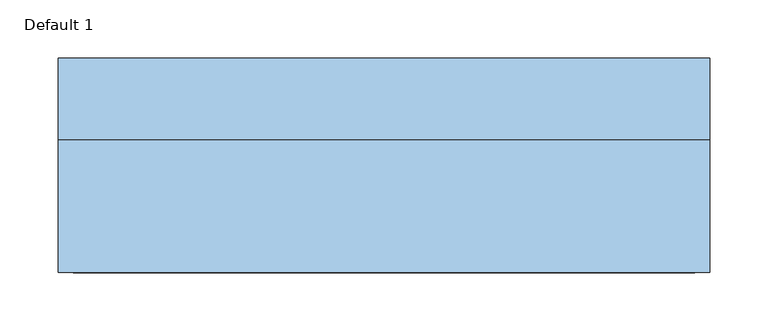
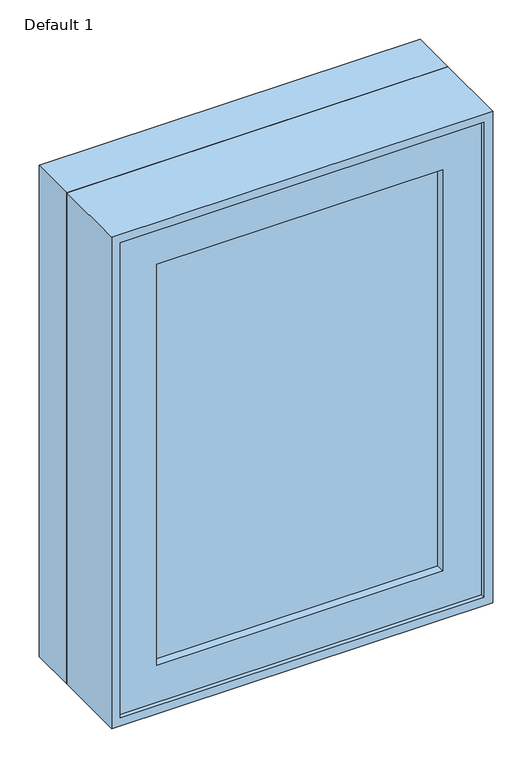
"""IFC4 building model written with IfcOpenShell, lengths in millimetres: window geometry, Planitar-Casement-Single_Left : Default 1."""

import ifcopenshell
import ifcopenshell.guid

model = None  # the IFC model being written
_history = None  # IfcOwnerHistory: only IFC2X3 demands one
_inside = {}  # id of a spatial element -> (the spatial element, [elements in it])
_under = {}  # id of a project, library or spatial element -> (it, [spatial elements below it])
_declared = {}  # id of a project -> (the project, [libraries it declares])
_typed = {}  # id of a type object -> (the type object, [elements of that type])
_made_of = {}  # id of a material, layer set ... -> (it, [elements and type objects made of it])


def new_model(schema):
    """Start an empty IFC model of exactly this schema.

    Asked for "IFC4X3", IfcOpenShell would pick the latest addendum, in which some entities
    have other attributes; the version numbers below select the first issue.
    IFC2X3 requires an IfcOwnerHistory on every rooted entity: one is made here for all.
    """
    global model, _history
    if schema == "IFC4X3":
        model = ifcopenshell.file(schema_version=(4, 3, 0, 0))
    else:
        model = ifcopenshell.file(schema=schema)
    _inside.clear()
    _under.clear()
    _declared.clear()
    _typed.clear()
    _made_of.clear()
    _history = None
    if model.schema == "IFC2X3":
        org = make("IfcOrganization", Name="unknown")
        user = make(
            "IfcPersonAndOrganization",
            ThePerson=make("IfcPerson", FamilyName="unknown"),
            TheOrganization=org,
        )
        app = make(
            "IfcApplication",
            ApplicationDeveloper=org,
            Version="unknown",
            ApplicationFullName="unknown",
            ApplicationIdentifier="unknown",
        )
        _history = make(
            "IfcOwnerHistory",
            OwningUser=user,
            OwningApplication=app,
            ChangeAction="ADDED",
            CreationDate=0,
        )
    return model


def make(cls, **values):
    """One entity of the class cls with the attributes given. An attribute that is None is left unset."""
    return model.create_entity(
        cls, **{name: value for name, value in values.items() if value is not None}
    )


def rooted(cls, **values):
    """An entity with a GlobalId (a new one), such as an element, a storey or a relation."""
    return make(cls, GlobalId=ifcopenshell.guid.new(), OwnerHistory=_history, **values)


def si_unit(unit_type, name, prefix=None):
    """IfcSIUnit, for example si_unit("LENGTHUNIT", "METRE", prefix="MILLI")."""
    return make("IfcSIUnit", UnitType=unit_type, Prefix=prefix, Name=name)


def assignment(units):
    """IfcUnitAssignment: the units of a project."""
    return None if units is None else make("IfcUnitAssignment", Units=units)


def point(xyz):
    """IfcCartesianPoint."""
    return None if xyz is None else make("IfcCartesianPoint", Coordinates=xyz)


def direction(xyz):
    """IfcDirection."""
    return None if xyz is None else make("IfcDirection", DirectionRatios=xyz)


def frame(location, z_axis=None, x_axis=None):
    """IfcAxis2Placement3D, a coordinate frame: its origin and axes. An axis left out is left unset."""
    return make(
        "IfcAxis2Placement3D",
        Location=point(location),
        Axis=direction(z_axis),
        RefDirection=direction(x_axis),
    )


def origin():
    """The frame at (0, 0, 0) with its axes left unset."""
    return frame((0.0, 0.0, 0.0))


def place(relative_to, where):
    """IfcLocalPlacement: puts the frame where relative to a parent placement (None: the world)."""
    return make(
        "IfcLocalPlacement", PlacementRelTo=relative_to, RelativePlacement=where
    )


def context(
    kind, dimensions, precision=None, world=None, true_north=None, identifier=None
):
    """IfcGeometricRepresentationContext, for example the 3D "Model" context."""
    return make(
        "IfcGeometricRepresentationContext",
        ContextIdentifier=identifier,
        ContextType=kind,
        CoordinateSpaceDimension=dimensions,
        Precision=precision,
        WorldCoordinateSystem=world,
        TrueNorth=true_north,
    )


def project(units=None, contexts=None):
    """IfcProject with its units and contexts."""
    return rooted(
        "IfcProject",
        Name="project",
        RepresentationContexts=contexts,
        UnitsInContext=assignment(units),
    )


def spatial(cls, under=None, at=None, **own):
    """A site, building, storey or space (cls), placed at a placement, below another one or the project."""
    s = rooted(cls, ObjectPlacement=at, **own)
    if under is not None:
        _under.setdefault(under.id(), (under, []))[1].append(s)
    return s


def polyline(points):
    """IfcPolyline through the points."""
    return make("IfcPolyline", Points=[point(p) for p in points])


def outline(outer, holes=None, kind="AREA"):
    """IfcArbitraryClosedProfileDef: a profile drawn as a closed curve; with holes, ...WithVoids."""
    if holes is None:
        return make("IfcArbitraryClosedProfileDef", ProfileType=kind, OuterCurve=outer)
    return make(
        "IfcArbitraryProfileDefWithVoids",
        ProfileType=kind,
        OuterCurve=outer,
        InnerCurves=holes,
    )


def extrude(swept, where, along, depth):
    """IfcExtrudedAreaSolid: the profile swept, set in the frame where, extruded along a direction by depth."""
    return make(
        "IfcExtrudedAreaSolid",
        SweptArea=swept,
        Position=where,
        ExtrudedDirection=direction(along),
        Depth=depth,
    )


def faces_of(points, faces, orient=None, outer=None):
    """IfcFace entities. A face is a list of loops; a loop is a list of indices into points, from 0.

    orient and outer hold one flag for each loop. By default every Orientation is true, the
    first loop of a face is its IfcFaceOuterBound and the others are IfcFaceBound.
    """
    made = []
    for i, loops in enumerate(faces):
        bounds = []
        for j, loop in enumerate(loops):
            is_outer = j == 0 if outer is None else outer[i][j]
            bounds.append(
                make(
                    "IfcFaceOuterBound" if is_outer else "IfcFaceBound",
                    Bound=make("IfcPolyLoop", Polygon=[points[k] for k in loop]),
                    Orientation=True if orient is None else orient[i][j],
                )
            )
        made.append(make("IfcFace", Bounds=bounds))
    return made


def faceted_brep(points, faces, orient=None, outer=None, voids=None):
    """IfcFacetedBrep: a solid bounded by flat faces; with voids (closed shells), ...WithVoids."""
    shared = [point(p) for p in points]
    hull = make("IfcClosedShell", CfsFaces=faces_of(shared, faces, orient, outer))
    if voids is None:
        return make("IfcFacetedBrep", Outer=hull)
    return make(
        "IfcFacetedBrepWithVoids",
        Outer=hull,
        Voids=[
            make(cls, CfsFaces=faces_of(shared, fs, o, b)) for cls, fs, o, b in voids
        ],
    )


def shape(context_of_items, identifier, shape_type, items):
    """IfcShapeRepresentation: the items that make up one representation, for example the "Body"."""
    return make(
        "IfcShapeRepresentation",
        ContextOfItems=context_of_items,
        RepresentationIdentifier=identifier,
        RepresentationType=shape_type,
        Items=items,
    )


def source(mapping_origin, context_of_items, identifier, shape_type, items):
    """IfcRepresentationMap: a shape defined once, which mapped items show again and again."""
    return make(
        "IfcRepresentationMap",
        MappingOrigin=mapping_origin,
        MappedRepresentation=shape(context_of_items, identifier, shape_type, items),
    )


def transform(
    local_origin,
    x_axis=None,
    y_axis=None,
    z_axis=None,
    scale=None,
    scale2=None,
    scale3=None,
    uniform=True,
):
    """IfcCartesianTransformationOperator3D, or its non-uniform kind. x_axis, y_axis, z_axis: its Axis1, 2, 3."""
    if uniform:
        return make(
            "IfcCartesianTransformationOperator3D",
            Axis1=direction(x_axis),
            Axis2=direction(y_axis),
            LocalOrigin=point(local_origin),
            Scale=scale,
            Axis3=direction(z_axis),
        )
    return make(
        "IfcCartesianTransformationOperator3DnonUniform",
        Axis1=direction(x_axis),
        Axis2=direction(y_axis),
        LocalOrigin=point(local_origin),
        Scale=scale,
        Axis3=direction(z_axis),
        Scale2=scale2,
        Scale3=scale3,
    )


def mapped(mapping_source, mapping_target):
    """IfcMappedItem: shows the shape of a source again, moved by a transform."""
    return make(
        "IfcMappedItem", MappingSource=mapping_source, MappingTarget=mapping_target
    )


def made_of(thing, what):
    """Note that an element or type object is made of a material, layer set ...; save() writes the relation."""
    if what is not None:
        _made_of.setdefault(what.id(), (what, []))[1].append(thing)
    return thing


def element(
    cls,
    number,
    at=None,
    inside=None,
    cuts=None,
    type_object=None,
    material=None,
    context=None,
    identifier="Body",
    shape_type=None,
    held_by="IfcProductDefinitionShape",
    body=None,
    shapes=None,
    **own,
):
    """One element of the class cls, such as IfcWall. Its Tag is "e" and its number.

    at: its placement. inside: the storey or other place that contains it. cuts: it is an
    opening in that element (IfcRelVoidsElement). A single representation is given by context,
    identifier, shape_type and body (its items); several are given by shapes. held_by: the class
    of the entity that holds the representations. save() writes the other relations.
    """
    e = rooted(cls, Tag="e%d" % number, ObjectPlacement=at, **own)
    if body is not None:
        shapes = [shape(context, identifier, shape_type, body)]
    if shapes is not None:
        e.Representation = make(held_by, Representations=shapes)
    if inside is not None:
        _inside.setdefault(inside.id(), (inside, []))[1].append(e)
    if cuts is not None:
        rooted(
            "IfcRelVoidsElement", RelatingBuildingElement=cuts, RelatedOpeningElement=e
        )
    if type_object is not None:
        _typed.setdefault(type_object.id(), (type_object, []))[1].append(e)
    return made_of(e, material)


def aggregate(whole, parts):
    """IfcRelAggregates: a whole, such as a stair, and the parts it consists of."""
    return rooted("IfcRelAggregates", RelatingObject=whole, RelatedObjects=parts)


def save(model, path):
    """Write the relations noted so far, then the file.

    IfcRelAggregates (storeys below a building ...), IfcRelContainedInSpatialStructure (elements
    in a storey), IfcRelDefinesByType, IfcRelAssociatesMaterial and IfcRelDeclares: one each for
    every whole, place, type object, material and project.
    """
    for whole, parts in _under.values():
        aggregate(whole, parts)
    for where, things in _inside.values():
        rooted(
            "IfcRelContainedInSpatialStructure",
            RelatedElements=things,
            RelatingStructure=where,
        )
    for kind, things in _typed.values():
        rooted("IfcRelDefinesByType", RelatedObjects=things, RelatingType=kind)
    for what, things in _made_of.values():
        rooted("IfcRelAssociatesMaterial", RelatedObjects=things, RelatingMaterial=what)
    for by, libraries in _declared.values():
        rooted("IfcRelDeclares", RelatingContext=by, RelatedDefinitions=libraries)
    model.write(path)


def default_1_749996dc(model_context):
    return source(origin(), model_context, "Body", "SolidModel", [
        extrude(outline(polyline([(209.55, -82.55), (-209.55, -82.55), (-209.55, -76.2), (209.55, -76.2), (209.55, -82.55)])), frame((0.0, 0.0, 984.25), z_axis=(0.0, 0.0, 1.0), x_axis=(1.0, 0.0, 0.0)), (0.0, 0.0, 1.0), 622.3),
        extrude(outline(polyline([(-209.55, -63.5), (209.55, -63.5), (209.55, -69.85), (-209.55, -69.85), (-209.55, -63.5)])), frame((0.0, 0.0, 984.25), z_axis=(0.0, 0.0, 1.0), x_axis=(1.0, 0.0, 0.0)), (0.0, 0.0, 1.0), 622.3),
        extrude(outline(polyline([(1663.7, 266.7), (1663.7, -266.7), (927.1, -266.7), (927.1, 266.7), (1663.7, 266.7)]), holes=[polyline([(1606.55, -209.55), (1606.55, 209.55), (984.25, 209.55), (984.25, -209.55), (1606.55, -209.55)])]), frame((0.0, -95.25, 0.0), z_axis=(0.0, 1.0, 0.0), x_axis=(0.0, 0.0, 1.0)), (0.0, 0.0, 1.0), 44.45),
        extrude(outline(polyline([(1676.4, -279.4), (914.4, -279.4), (914.4, 279.4), (1676.4, 279.4), (1676.4, -279.4)]), holes=[polyline([(1657.35, 260.35), (933.45, 260.35), (933.45, -260.35), (1657.35, -260.35), (1657.35, 260.35)])]), frame((0.0, 12.7, 0.0), z_axis=(0.0, 1.0, 0.0), x_axis=(0.0, 0.0, 1.0)), (0.0, 0.0, 1.0), 69.85),
        faceted_brep([(247.65, -50.8, 1644.65), (-247.65, -50.8, 1644.65), (-247.65, 12.7, 1644.65), (247.65, 12.7, 1644.65), (266.7, -101.6, 1663.7), (-266.7, -101.6, 1663.7), (-266.7, -50.8, 1663.7), (266.7, -50.8, 1663.7), (279.4, 12.7, 1676.4), (-279.4, 12.7, 1676.4), (-279.4, -101.6, 1676.4), (279.4, -101.6, 1676.4), (-247.65, -50.8, 946.15), (-247.65, 12.7, 946.15), (-266.7, -101.6, 927.1), (-266.7, -50.8, 927.1), (-279.4, 12.7, 914.4), (-279.4, -101.6, 914.4), (247.65, -50.8, 946.15), (247.65, 12.7, 946.15), (266.7, -101.6, 927.1), (266.7, -50.8, 927.1), (279.4, 12.7, 914.4), (279.4, -101.6, 914.4)], [[[0, 1, 2, 3]], [[4, 5, 6, 7]], [[8, 9, 10, 11]], [[1, 12, 13, 2]], [[5, 14, 15, 6]], [[9, 16, 17, 10]], [[12, 18, 19, 13]], [[14, 20, 21, 15]], [[16, 22, 23, 17]], [[9, 8, 22, 16], [3, 2, 13, 19]], [[18, 0, 3, 19]], [[7, 6, 15, 21], [1, 0, 18, 12]], [[20, 4, 7, 21]], [[22, 8, 11, 23]], [[11, 10, 17, 23], [5, 4, 20, 14]]]),
    ])


if __name__ == "__main__":
    model = new_model("IFC4")
    model_context = context("Model", 3, world=origin())
    ifc_project = project(units=[si_unit("LENGTHUNIT", "METRE", prefix="MILLI")], contexts=[model_context])
    site = spatial("IfcSite", under=ifc_project)
    building = spatial("IfcBuilding", under=site)
    placement = place(None, origin())
    default_1_shape = default_1_749996dc(model_context)
    element("IfcWindow", 1, ObjectType="Planitar-Casement-Single_Left : Default 1", at=placement, inside=building, context=model_context, shape_type="MappedRepresentation", body=[
        mapped(default_1_shape, transform((0.0, 0.0, 0.0), x_axis=(1.0, 0.0, 0.0), y_axis=(0.0, 1.0, 0.0), z_axis=(0.0, 0.0, 1.0))),
    ])
    save(model, "model.ifc")
